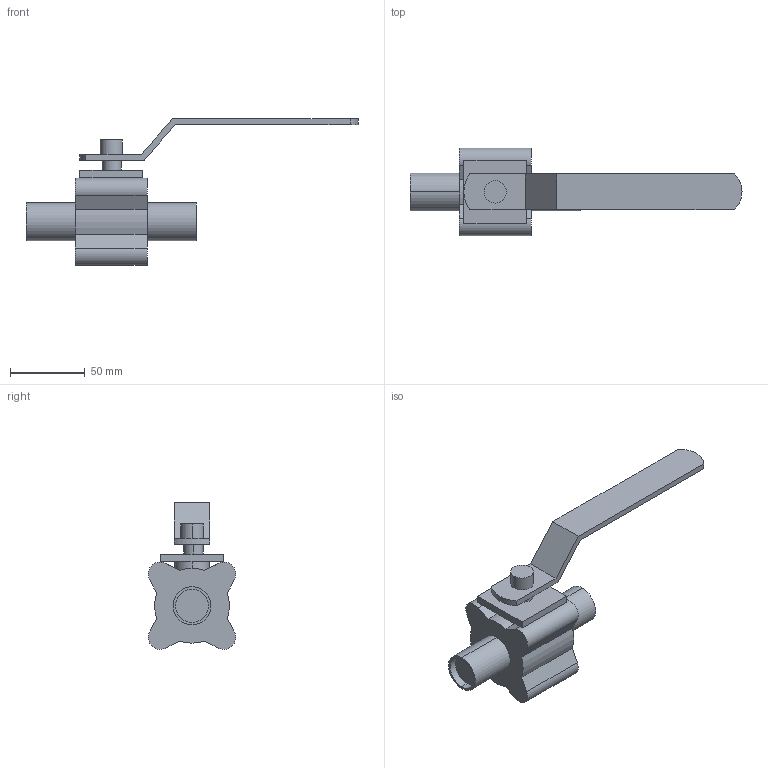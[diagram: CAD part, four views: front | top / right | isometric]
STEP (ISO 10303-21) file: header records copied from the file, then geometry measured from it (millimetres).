
FILE_DESCRIPTION(('Creo Elements/Direct Modeling STEP Export'),'2;1');
FILE_NAME('BLV1-1T-H-12S.stp','2019-05-10T 8:08:09',(''),(''),'Creo Elements/Direct Modeling STEP processor for AP214 (Solid Model)','Creo Elements/Direct Modeling 19.0F 14-Feb-2017 (C) Parametric Technology GmbH','');
FILE_SCHEMA(('AUTOMOTIVE_DESIGN { 1 0 10303 214 1 1 1 1 }'));
Length unit declared in the file: millimetre
Products named in the file (2): BLV1-1T-H-12S
Assembly tree (1 placements, depth 2):
  BLV1-1T-H-12S
    BLV1-1T-H-12S
Bounding box: 222 x 58.42 x 98.21 mm (x, y, z)
Volume: 196003.1 mm3; surface area: 38034.3 mm2
Topology: 1 solids, 1 shells, 54 faces, 132 edges, 88 vertices
Faces by surface type: plane 29, cylinder 25
Entity records: 1611 total; most frequent: CARTESIAN_POINT 308, ORIENTED_EDGE 264, DIRECTION 258, EDGE_CURVE 132, AXIS2_PLACEMENT_3D 90, VERTEX_POINT 88, VECTOR 78, LINE 78
